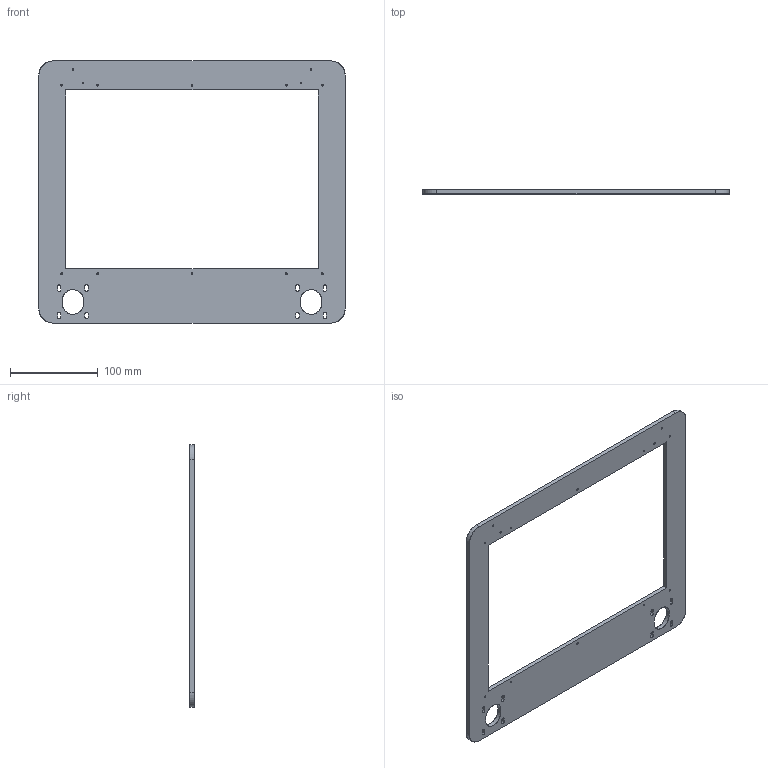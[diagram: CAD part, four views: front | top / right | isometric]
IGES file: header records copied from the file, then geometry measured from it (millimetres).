
Start section: SolidWorks IGES file using analytic representation for surfaces
Global section: file name: C:\Documents and Settings\Administrator\Desktop\coreXY\CoreXY EVT1\20110623\corexy1_baseplate.IGS; native system: SolidWorks 2009; preprocessor: SolidWorks 2009; author: Administrator; date: 120423.190333; units: millimetre
Bounding box: 348 x 4.9 x 297.9 mm (x, y, z)
Surface area: 100428.1 mm2 (no closed solid volume)
Topology: 0 solids, 0 shells, 92 faces, 1312 edges, 1312 vertices
Faces by surface type: revolution 62, bspline 30
